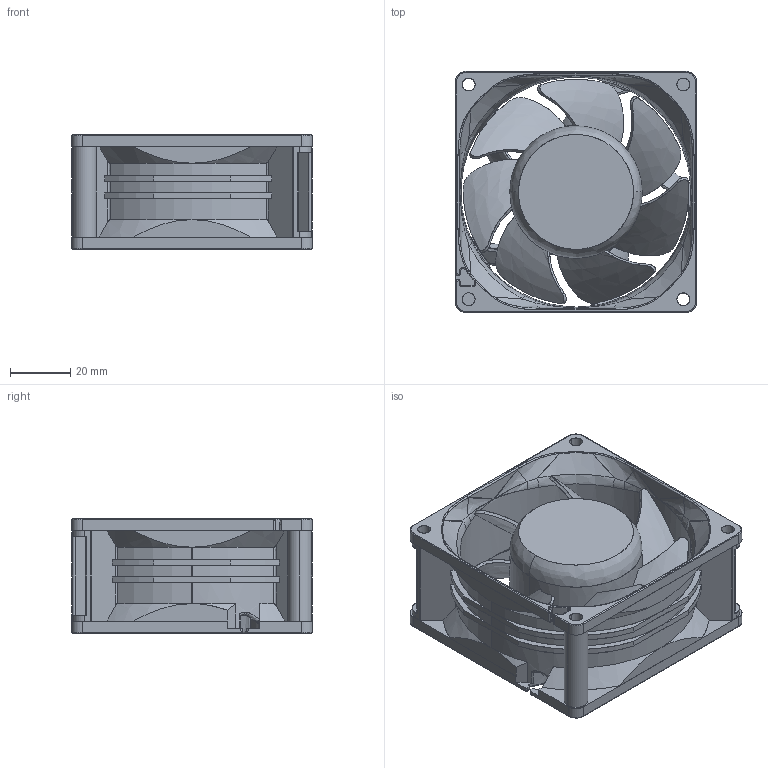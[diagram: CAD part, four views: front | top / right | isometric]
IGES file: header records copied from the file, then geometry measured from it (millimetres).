
Start section: SolidWorks IGES file using analytic representation for surfaces
Global section: file name: C:\Solid Works\4200\80x38GV\営業提出用\フルバージョン\リブ付\8038GV_RIBBED.IGS; native system: SolidWorks 2017; preprocessor: SolidWorks 2017; author: Miyabara-Yoshinori; date: 170329.174703; units: millimetre
Bounding box: 80.2 x 80.2 x 38 mm (x, y, z)
Surface area: 47752.8 mm2 (no closed solid volume)
Topology: 0 solids, 0 shells, 605 faces, 7542 edges, 7509 vertices
Faces by surface type: bspline 372, revolution 233
